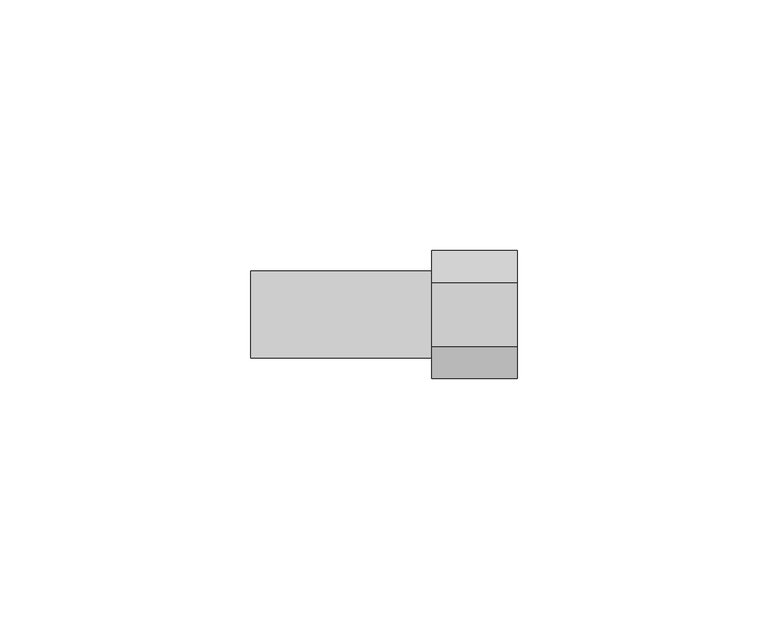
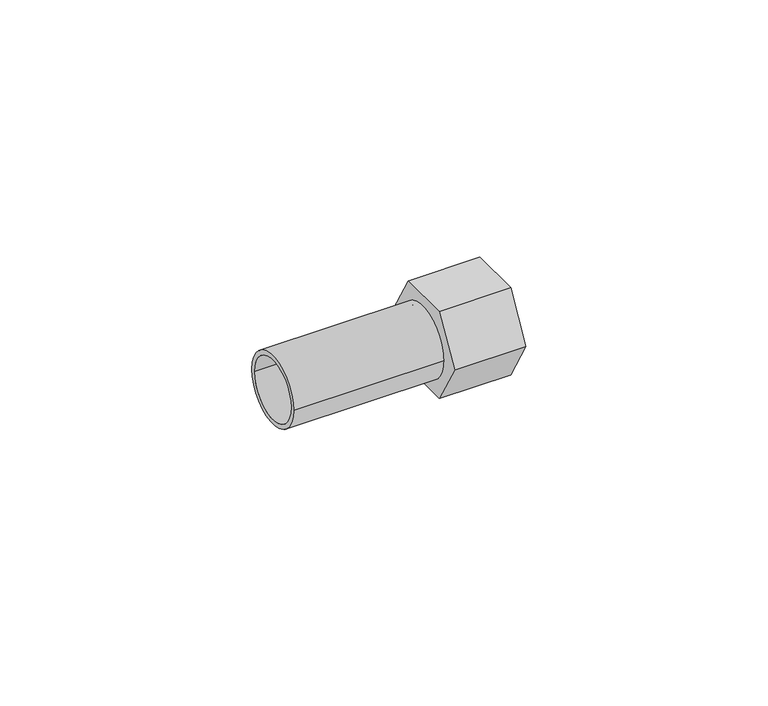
"""IFC4 building model written with IfcOpenShell, lengths in millimetres: pipe fitting geometry, VALTEC_VTi.907.I_Вставка с внутренней резьбой_Нержавеющая сталь : VTi.907.I."""

from ifc_helpers import new_model, si_unit, point, frame, origin, origin_2d, place, context, project, spatial, polyline, circle_curve, trimmed, segment, composite_curve, outline, extrude, source, transform, mapped, element, save


def pipe_fitting_1559b301(model_context):
    return source(origin(), model_context, "Body", "SweptSolid", [
        extrude(outline(polyline([(-12.7017059, 0.0), (-6.350853, 11.0), (6.350853, 11.0), (12.7017059, 0.0), (6.350853, -11.0), (-6.350853, -11.0), (-12.7017059, 0.0)]), holes=[composite_curve([segment(trimmed(circle_curve(origin_2d(), 7.5), [point((7.5, 0.0))], [point((-7.5, 0.0))], True, "CARTESIAN"), True, "CONTINUOUS"), segment(trimmed(circle_curve(origin_2d(), 7.5), [point((-7.5, 0.0))], [point((7.5, 0.0))], True, "CARTESIAN"), True, "CONTINUOUS")], self_intersect=False)]), frame((-8.5, 0.0, 0.0), z_axis=(1.0, 0.0, 0.0), x_axis=(0.0, 1.0, 0.0)), (0.0, 0.0, 1.0), 17.0),
        extrude(outline(composite_curve([segment(trimmed(circle_curve(origin_2d(), 8.625), [point((-8.625, 0.0))], [point((8.625, 0.0))], False, "CARTESIAN"), True, "CONTINUOUS"), segment(trimmed(circle_curve(origin_2d(), 8.625), [point((8.625, 0.0))], [point((-8.625, 0.0))], False, "CARTESIAN"), True, "CONTINUOUS")], self_intersect=False), holes=[composite_curve([segment(trimmed(circle_curve(origin_2d(), 7.5), [point((-7.5, 0.0))], [point((7.5, 0.0))], True, "CARTESIAN"), True, "CONTINUOUS"), segment(trimmed(circle_curve(origin_2d(), 7.5), [point((7.5, 0.0))], [point((-7.5, 0.0))], True, "CARTESIAN"), True, "CONTINUOUS")], self_intersect=False)]), frame((-44.5, 0.0, 0.0), z_axis=(1.0, 0.0, 0.0), x_axis=(0.0, 1.0, 0.0)), (0.0, 0.0, 1.0), 36.0),
    ])


if __name__ == "__main__":
    model = new_model("IFC4")
    model_context = context("Model", 3, world=origin())
    ifc_project = project(units=[si_unit("LENGTHUNIT", "METRE", prefix="MILLI")], contexts=[model_context])
    site = spatial("IfcSite", under=ifc_project)
    building = spatial("IfcBuilding", under=site)
    placement = place(None, origin())
    pipe_fitting_shape = pipe_fitting_1559b301(model_context)
    element("IfcPipeFitting", 1, ObjectType="VALTEC_VTi.907.I_Вставка с внутренней резьбой_Нержавеющая сталь : VTi.907.I", at=placement, inside=building, context=model_context, shape_type="MappedRepresentation", body=[
        mapped(pipe_fitting_shape, transform((0.0, 0.0, 0.0), x_axis=(1.0, 0.0, 0.0), y_axis=(0.0, 1.0, 0.0), z_axis=(0.0, 0.0, 1.0))),
    ])
    save(model, "model.ifc")
